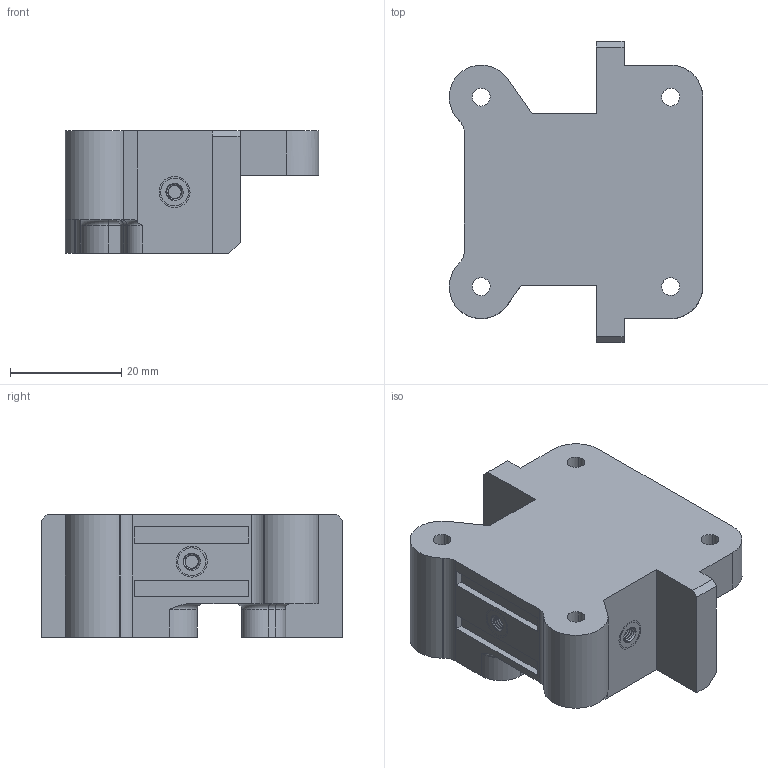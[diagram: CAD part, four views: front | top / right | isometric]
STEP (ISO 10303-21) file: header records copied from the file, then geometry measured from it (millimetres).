
FILE_DESCRIPTION(('CATIA V5 STEP Exchange'),'2;1');
FILE_NAME('E:\Dropbox\3D Printer Fan Duct Designs\1.) Artillery Sidewinder X1\3D Models\5015 Double Ducts\HEMERA MATRIX\COMMON PARTS\Removable extruder support_Insert.stp','2022-01-08T15:51:10+00:00',('none'),('none'),'CATIA Version 5 Release 20 SP 1 (IN-10)','CATIA V5 STEP AP214','none');
FILE_SCHEMA(('AUTOMOTIVE_DESIGN { 1 0 10303 214 1 1 1 1 }'));
Products named in the file (1): Soporte_extraible_extrusor_MOD
Bounding box: 45.48 x 54 x 22 mm (x, y, z)
Volume: 26064.3 mm3; surface area: 9796.8 mm2
Topology: 4 solids, 4 shells, 1505 faces, 4014 edges, 2538 vertices
Faces by surface type: bspline 1059, cylinder 337, plane 61, cone 43, torus 5
Entity records: 46319 total; most frequent: CARTESIAN_POINT 21042, ORIENTED_EDGE 8028, EDGE_CURVE 4014, VERTEX_POINT 2538, DIRECTION 1882, EDGE_LOOP 1542, ADVANCED_FACE 1505, FACE_OUTER_BOUND 1505
